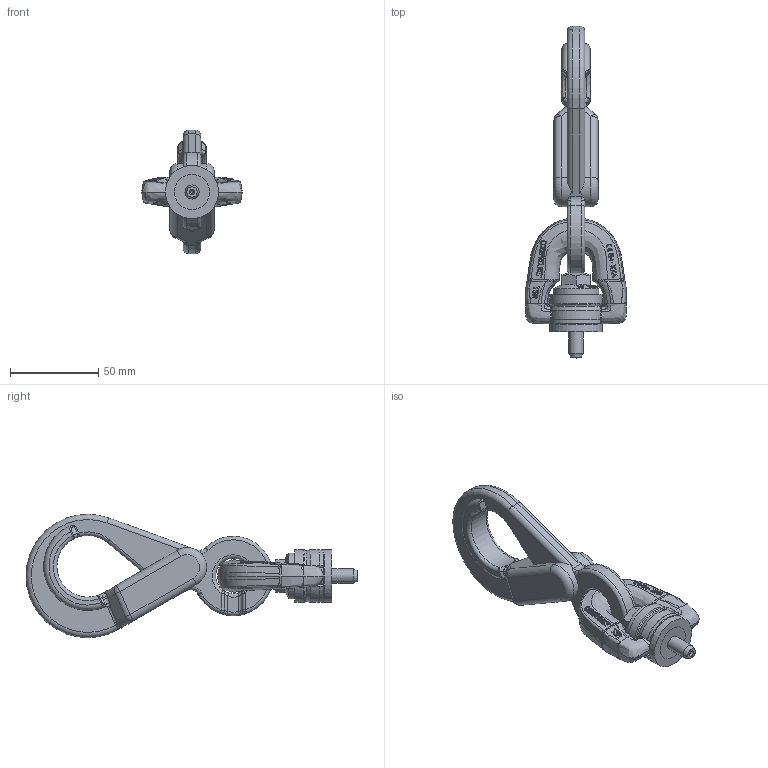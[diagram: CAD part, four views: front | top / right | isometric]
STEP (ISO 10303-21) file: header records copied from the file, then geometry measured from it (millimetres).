
FILE_DESCRIPTION(/* description */ (''),/* implementation_level */ '2;1');
FILE_NAME(/* name */ 'W:\CODIPRO\DOCUMENTS\Plans A NE PAS DIFFUSER !!!\Inventor\Standard Inventor\Produit Fini Inventor\DSH\Fichiers 3D\DSH M8.stp',/* time_stamp */ '2017-10-06T09:07:45+02:00',/* author */ ('rklenes'),/* organization */ (''),/* preprocessor_version */ 'ST-DEVELOPER v16.5',/* originating_system */ 'Autodesk Inventor 2017',/* authorisation */ '');
FILE_SCHEMA (('AUTOMOTIVE_DESIGN { 1 0 10303 214 3 1 1 }'));
Products named in the file (6): DSH M8; TSM_AO1C; DRA_M8X36; DHH_S1; DRE_D1M8A; DRB_B1B
Assembly tree (5 placements, depth 2):
  DSH M8
    TSM_AO1C
    DRA_M8X36
    DHH_S1
    DRE_D1M8A
    DRB_B1B
Bounding box: 57.01 x 188.25 x 70 mm (x, y, z)
Volume: 112456.2 mm3; surface area: 33271.6 mm2
Topology: 5 solids, 5 shells, 845 faces, 2192 edges, 1347 vertices
Faces by surface type: bspline 420, plane 266, cylinder 77, torus 35, cone 34, sphere 13
Full cylindrical faces by diameter (mm): 1.6 x1, 8 x3, 8.2 x1, 10 x2, 14.7 x2, 15 x2, 22 x1, 26 x1, 30 x2
Entity records: 49291 total; most frequent: CARTESIAN_POINT 31540, ORIENTED_EDGE 4210, DIRECTION 2640, EDGE_CURVE 2105, VERTEX_POINT 1342, AXIS2_PLACEMENT_3D 998, EDGE_LOOP 925, FACE_OUTER_BOUND 845
